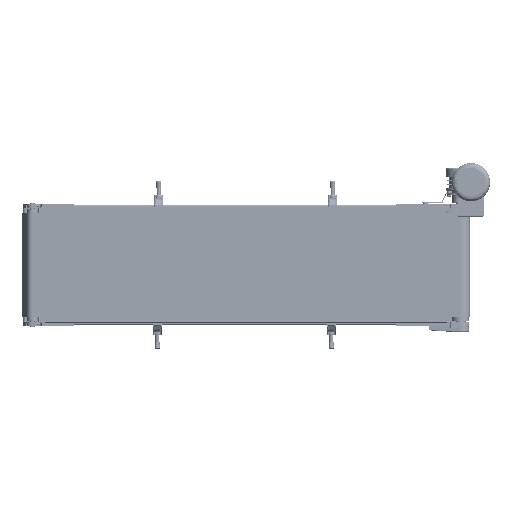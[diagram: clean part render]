
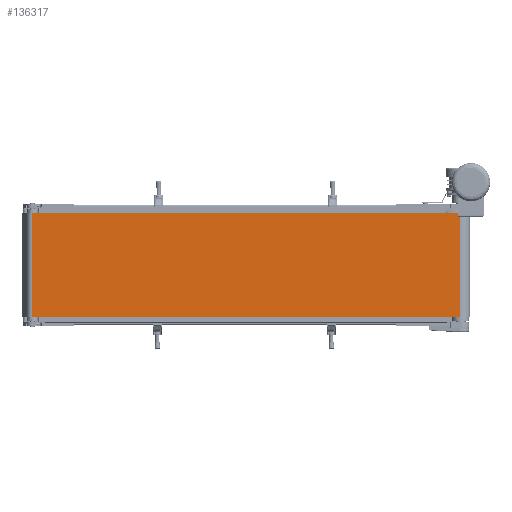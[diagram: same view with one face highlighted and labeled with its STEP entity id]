
A CAD part, front view. The second image highlights one B-rep face of the part: STEP entity #136317.
In plain terms, the highlighted planar face has unit normal (0, -1, 0).
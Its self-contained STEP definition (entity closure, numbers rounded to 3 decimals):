
#9860 = AXIS2_PLACEMENT_3D ( 'NONE', #10802, #159197, #108856 ) ;
#10802 = CARTESIAN_POINT ( 'NONE',  ( -613., -27., 150. ) ) ;
#11164 = DIRECTION ( 'NONE',  ( 1., 0., 0. ) ) ;
#11967 = LINE ( 'NONE', #50684, #98150 ) ;
#21092 = EDGE_CURVE ( 'NONE', #108488, #101378, #11967, .T. ) ;
#26778 = LINE ( 'NONE', #127332, #111137 ) ;
#28490 = EDGE_CURVE ( 'NONE', #101378, #44295, #46737, .T. ) ;
#44295 = VERTEX_POINT ( 'NONE', #140101 ) ;
#46737 = LINE ( 'NONE', #96967, #113823 ) ;
#47873 = FACE_OUTER_BOUND ( 'NONE', #141464, .T. ) ;
#50684 = CARTESIAN_POINT ( 'NONE',  ( -613., -27., 150. ) ) ;
#59666 = ORIENTED_EDGE ( 'NONE', *, *, #151476, .T. ) ;
#60220 = PLANE ( 'NONE',  #9860 ) ;
#60329 = ORIENTED_EDGE ( 'NONE', *, *, #21092, .F. ) ;
#62774 = CARTESIAN_POINT ( 'NONE',  ( -613., -27., 150. ) ) ;
#64655 = DIRECTION ( 'NONE',  ( 1., 0., 0. ) ) ;
#66017 = DIRECTION ( 'NONE',  ( 0., 0., -1. ) ) ;
#92186 = VECTOR ( 'NONE', #66017, 1000. ) ;
#96967 = CARTESIAN_POINT ( 'NONE',  ( 617., -27., 150. ) ) ;
#98150 = VECTOR ( 'NONE', #11164, 1000. ) ;
#101040 = CARTESIAN_POINT ( 'NONE',  ( -613., -27., 150. ) ) ;
#101378 = VERTEX_POINT ( 'NONE', #141419 ) ;
#105922 = ORIENTED_EDGE ( 'NONE', *, *, #149452, .T. ) ;
#108488 = VERTEX_POINT ( 'NONE', #101040 ) ;
#108856 = DIRECTION ( 'NONE',  ( -1., 0., 0. ) ) ;
#109090 = VERTEX_POINT ( 'NONE', #155230 ) ;
#110774 = ORIENTED_EDGE ( 'NONE', *, *, #28490, .F. ) ;
#111137 = VECTOR ( 'NONE', #64655, 1000. ) ;
#113823 = VECTOR ( 'NONE', #147302, 1000. ) ;
#127332 = CARTESIAN_POINT ( 'NONE',  ( -613., -27., -150. ) ) ;
#129491 = LINE ( 'NONE', #62774, #92186 ) ;
#136317 = ADVANCED_FACE ( 'NONE', ( #47873 ), #60220, .F. ) ;
#140101 = CARTESIAN_POINT ( 'NONE',  ( 617., -27., -150. ) ) ;
#141419 = CARTESIAN_POINT ( 'NONE',  ( 617., -27., 150. ) ) ;
#141464 = EDGE_LOOP ( 'NONE', ( #59666, #110774, #60329, #105922 ) ) ;
#147302 = DIRECTION ( 'NONE',  ( 0., 0., -1. ) ) ;
#149452 = EDGE_CURVE ( 'NONE', #108488, #109090, #129491, .T. ) ;
#151476 = EDGE_CURVE ( 'NONE', #109090, #44295, #26778, .T. ) ;
#155230 = CARTESIAN_POINT ( 'NONE',  ( -613., -27., -150. ) ) ;
#159197 = DIRECTION ( 'NONE',  ( 0., 1., 0. ) ) ;
